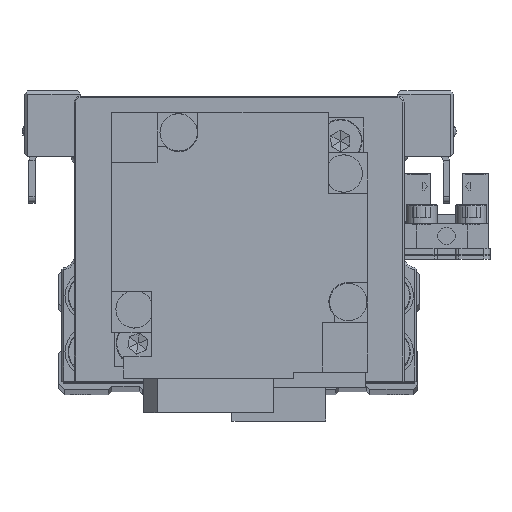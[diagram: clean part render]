
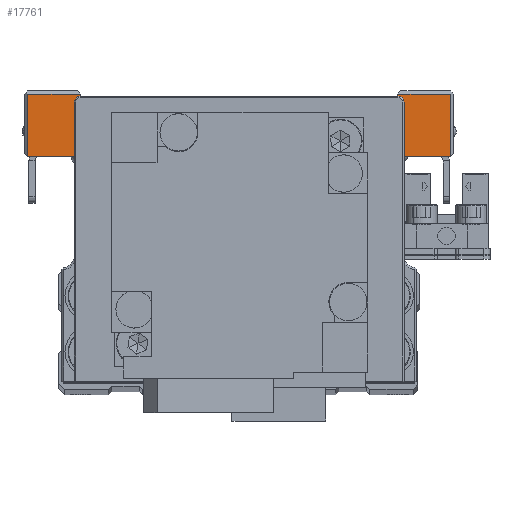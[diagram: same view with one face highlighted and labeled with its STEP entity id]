
A CAD part, top view. The second image highlights one B-rep face of the part: STEP entity #17761.
In plain terms, the highlighted planar face has unit normal (0, 0, 1) as drawn and (1, 0, 0) by its records, which use the part's own axes.
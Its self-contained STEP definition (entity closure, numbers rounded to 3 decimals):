
#151 = CARTESIAN_POINT ( 'NONE',  ( 25.5, 5., -34.5 ) ) ;
#344 = EDGE_LOOP ( 'NONE', ( #19926, #26949, #21432, #5774, #7794, #31330, #3404, #4923, #34351, #15528, #20483, #25533, #18152, #28564 ) ) ;
#909 = VECTOR ( 'NONE', #5557, 1000. ) ;
#1106 = LINE ( 'NONE', #11918, #11026 ) ;
#1115 = LINE ( 'NONE', #11928, #10936 ) ;
#1332 = DIRECTION ( 'NONE',  ( 0., 0., 1. ) ) ;
#1483 = EDGE_CURVE ( 'NONE', #12346, #22669, #7465, .T. ) ;
#2063 = LINE ( 'NONE', #12872, #27425 ) ;
#2561 = EDGE_CURVE ( 'NONE', #15143, #22669, #27199, .T. ) ;
#2595 = CARTESIAN_POINT ( 'NONE',  ( 25.5, 15., 34. ) ) ;
#2958 = CARTESIAN_POINT ( 'NONE',  ( 25.5, 5., -16.5 ) ) ;
#3364 = DIRECTION ( 'NONE',  ( 0., 0., -1. ) ) ;
#3395 = VECTOR ( 'NONE', #13404, 1000. ) ;
#3404 = ORIENTED_EDGE ( 'NONE', *, *, #10841, .F. ) ;
#3642 = CARTESIAN_POINT ( 'NONE',  ( 25.5, 5., 16.5 ) ) ;
#4004 = PLANE ( 'NONE',  #19293 ) ;
#4097 = CARTESIAN_POINT ( 'NONE',  ( 25.5, -6., 16.5 ) ) ;
#4836 = EDGE_CURVE ( 'NONE', #33140, #17298, #8548, .T. ) ;
#4896 = DIRECTION ( 'NONE',  ( 0., 1., 0. ) ) ;
#4923 = ORIENTED_EDGE ( 'NONE', *, *, #1483, .T. ) ;
#4979 = CARTESIAN_POINT ( 'NONE',  ( 25.5, -6., -16.2 ) ) ;
#5337 = EDGE_CURVE ( 'NONE', #19847, #30920, #16834, .T. ) ;
#5355 = CARTESIAN_POINT ( 'NONE',  ( 25.5, 15., -25.5 ) ) ;
#5557 = DIRECTION ( 'NONE',  ( 0., 0., -1. ) ) ;
#5774 = ORIENTED_EDGE ( 'NONE', *, *, #33163, .T. ) ;
#7465 = LINE ( 'NONE', #18267, #33932 ) ;
#7641 = CARTESIAN_POINT ( 'NONE',  ( 25.5, -6., 16.2 ) ) ;
#7794 = ORIENTED_EDGE ( 'NONE', *, *, #32580, .T. ) ;
#8548 = LINE ( 'NONE', #16696, #19074 ) ;
#8586 = CARTESIAN_POINT ( 'NONE',  ( 25.5, 15., 34. ) ) ;
#9357 = VERTEX_POINT ( 'NONE', #24499 ) ;
#10180 = VERTEX_POINT ( 'NONE', #8586 ) ;
#10359 = VECTOR ( 'NONE', #10958, 1000. ) ;
#10602 = EDGE_CURVE ( 'NONE', #17298, #13191, #29575, .T. ) ;
#10841 = EDGE_CURVE ( 'NONE', #12346, #12748, #28328, .T. ) ;
#10915 = CARTESIAN_POINT ( 'NONE',  ( 25.5, -5.7, 16.5 ) ) ;
#10936 = VECTOR ( 'NONE', #22699, 1000. ) ;
#10958 = DIRECTION ( 'NONE',  ( 0., 0., -1. ) ) ;
#11026 = VECTOR ( 'NONE', #22687, 1000. ) ;
#11918 = CARTESIAN_POINT ( 'NONE',  ( 25.5, 10.5, 25.5 ) ) ;
#11928 = CARTESIAN_POINT ( 'NONE',  ( 25.5, 5., 34. ) ) ;
#12346 = VERTEX_POINT ( 'NONE', #4979 ) ;
#12519 = CARTESIAN_POINT ( 'NONE',  ( 25.5, 15., -25.5 ) ) ;
#12549 = CARTESIAN_POINT ( 'NONE',  ( 25.5, -6., 16.2 ) ) ;
#12748 = VERTEX_POINT ( 'NONE', #12549 ) ;
#12872 = CARTESIAN_POINT ( 'NONE',  ( 25.5, 5., 16.5 ) ) ;
#13191 = VERTEX_POINT ( 'NONE', #12519 ) ;
#13404 = DIRECTION ( 'NONE',  ( 0., 0., 1. ) ) ;
#13607 = CARTESIAN_POINT ( 'NONE',  ( 25.5, 10.5, -25.5 ) ) ;
#13762 = DIRECTION ( 'NONE',  ( 0., -1., 0. ) ) ;
#14803 = CARTESIAN_POINT ( 'NONE',  ( 25.5, 5., -16.5 ) ) ;
#14903 = DIRECTION ( 'NONE',  ( 0., 0., 1. ) ) ;
#14936 = VECTOR ( 'NONE', #18443, 1000. ) ;
#15143 = VERTEX_POINT ( 'NONE', #33333 ) ;
#15528 = ORIENTED_EDGE ( 'NONE', *, *, #34094, .T. ) ;
#16163 = DIRECTION ( 'NONE',  ( 0., 0., 1. ) ) ;
#16179 = CARTESIAN_POINT ( 'NONE',  ( 25.5, 5., -34. ) ) ;
#16696 = CARTESIAN_POINT ( 'NONE',  ( 25.5, 5., -34. ) ) ;
#16834 = LINE ( 'NONE', #27599, #23603 ) ;
#16972 = CARTESIAN_POINT ( 'NONE',  ( 25.5, -5.7, -16.5 ) ) ;
#17208 = VECTOR ( 'NONE', #13762, 1000. ) ;
#17298 = VERTEX_POINT ( 'NONE', #22128 ) ;
#17586 = VERTEX_POINT ( 'NONE', #10915 ) ;
#17761 = ADVANCED_FACE ( 'NONE', ( #28228 ), #4004, .F. ) ;
#18152 = ORIENTED_EDGE ( 'NONE', *, *, #32589, .F. ) ;
#18267 = CARTESIAN_POINT ( 'NONE',  ( 25.5, -6., -16.2 ) ) ;
#18346 = LINE ( 'NONE', #29114, #31930 ) ;
#18443 = DIRECTION ( 'NONE',  ( 0., -0.707, -0.707 ) ) ;
#18923 = VECTOR ( 'NONE', #16163, 1000. ) ;
#18998 = LINE ( 'NONE', #29769, #909 ) ;
#19074 = VECTOR ( 'NONE', #27460, 1000. ) ;
#19293 = AXIS2_PLACEMENT_3D ( 'NONE', #14803, #25572, #1332 ) ;
#19847 = VERTEX_POINT ( 'NONE', #23050 ) ;
#19926 = ORIENTED_EDGE ( 'NONE', *, *, #32014, .T. ) ;
#20483 = ORIENTED_EDGE ( 'NONE', *, *, #4836, .T. ) ;
#21252 = EDGE_CURVE ( 'NONE', #17586, #12748, #31865, .T. ) ;
#21432 = ORIENTED_EDGE ( 'NONE', *, *, #23701, .T. ) ;
#22128 = CARTESIAN_POINT ( 'NONE',  ( 25.5, 15., -34. ) ) ;
#22669 = VERTEX_POINT ( 'NONE', #16972 ) ;
#22687 = DIRECTION ( 'NONE',  ( 0., 1., 0. ) ) ;
#22699 = DIRECTION ( 'NONE',  ( 0., -1., 0. ) ) ;
#23050 = CARTESIAN_POINT ( 'NONE',  ( 25.5, 10.5, 25.5 ) ) ;
#23162 = VERTEX_POINT ( 'NONE', #3642 ) ;
#23603 = VECTOR ( 'NONE', #3364, 1000. ) ;
#23647 = DIRECTION ( 'NONE',  ( 0., -1., 0. ) ) ;
#23701 = EDGE_CURVE ( 'NONE', #10180, #31657, #1115, .T. ) ;
#24392 = LINE ( 'NONE', #151, #10359 ) ;
#24499 = CARTESIAN_POINT ( 'NONE',  ( 25.5, 15., 25.5 ) ) ;
#25533 = ORIENTED_EDGE ( 'NONE', *, *, #10602, .T. ) ;
#25572 = DIRECTION ( 'NONE',  ( -1., 0., 0. ) ) ;
#25708 = VECTOR ( 'NONE', #14903, 1000. ) ;
#26826 = LINE ( 'NONE', #2595, #3395 ) ;
#26949 = ORIENTED_EDGE ( 'NONE', *, *, #28934, .T. ) ;
#27199 = LINE ( 'NONE', #2958, #17208 ) ;
#27425 = VECTOR ( 'NONE', #23647, 1000. ) ;
#27460 = DIRECTION ( 'NONE',  ( 0., 1., 0. ) ) ;
#27599 = CARTESIAN_POINT ( 'NONE',  ( 25.5, 10.5, -25.5 ) ) ;
#28228 = FACE_OUTER_BOUND ( 'NONE', #344, .T. ) ;
#28328 = LINE ( 'NONE', #4097, #25708 ) ;
#28564 = ORIENTED_EDGE ( 'NONE', *, *, #5337, .F. ) ;
#28934 = EDGE_CURVE ( 'NONE', #9357, #10180, #26826, .T. ) ;
#29038 = DIRECTION ( 'NONE',  ( 0., 0.707, -0.707 ) ) ;
#29114 = CARTESIAN_POINT ( 'NONE',  ( 25.5, 10.5, -25.5 ) ) ;
#29575 = LINE ( 'NONE', #5355, #18923 ) ;
#29769 = CARTESIAN_POINT ( 'NONE',  ( 25.5, 5., -34.5 ) ) ;
#30920 = VERTEX_POINT ( 'NONE', #13607 ) ;
#31330 = ORIENTED_EDGE ( 'NONE', *, *, #21252, .T. ) ;
#31368 = CARTESIAN_POINT ( 'NONE',  ( 25.5, 5., 34. ) ) ;
#31657 = VERTEX_POINT ( 'NONE', #31368 ) ;
#31865 = LINE ( 'NONE', #7641, #14936 ) ;
#31930 = VECTOR ( 'NONE', #4896, 1000. ) ;
#32014 = EDGE_CURVE ( 'NONE', #19847, #9357, #1106, .T. ) ;
#32580 = EDGE_CURVE ( 'NONE', #23162, #17586, #2063, .T. ) ;
#32589 = EDGE_CURVE ( 'NONE', #30920, #13191, #18346, .T. ) ;
#33140 = VERTEX_POINT ( 'NONE', #16179 ) ;
#33163 = EDGE_CURVE ( 'NONE', #31657, #23162, #18998, .T. ) ;
#33333 = CARTESIAN_POINT ( 'NONE',  ( 25.5, 5., -16.5 ) ) ;
#33932 = VECTOR ( 'NONE', #29038, 1000. ) ;
#34094 = EDGE_CURVE ( 'NONE', #15143, #33140, #24392, .T. ) ;
#34351 = ORIENTED_EDGE ( 'NONE', *, *, #2561, .F. ) ;
